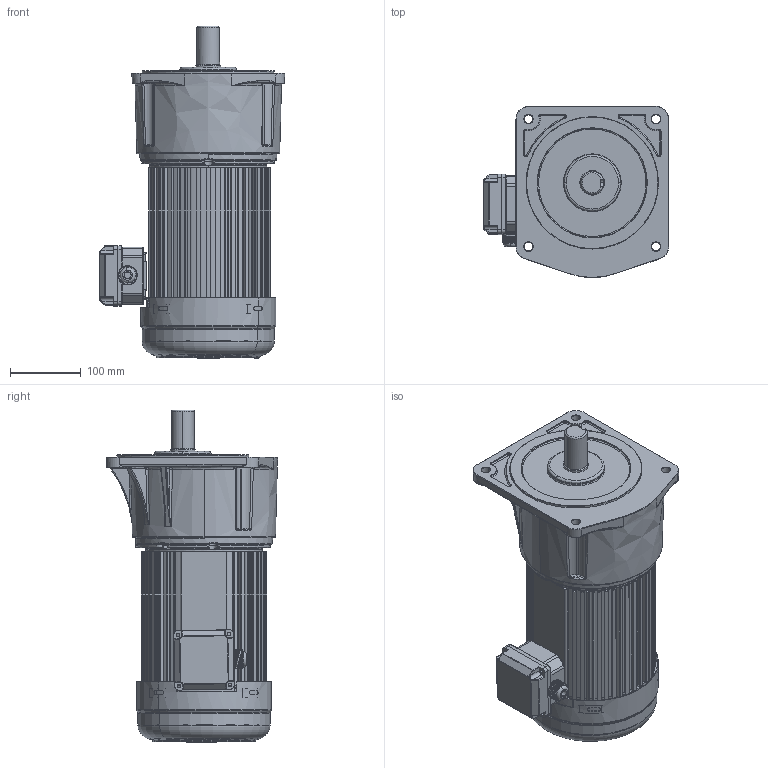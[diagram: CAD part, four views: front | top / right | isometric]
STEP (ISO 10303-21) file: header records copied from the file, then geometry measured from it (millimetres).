
FILE_DESCRIPTION (( 'STEP AP203' ), '1' );
FILE_NAME ('2200W饜4#湍价陬蕾宒.STEP', '2020-04-18T01:39:13', ( 'china' ), ( 'china' ), 'SwSTEP 2.0', 'SolidWorks 2019', '' );
FILE_SCHEMA (( 'CONFIG_CONTROL_DESIGN' ));
Length unit declared in the file: millimetre
Products named in the file (9): 4#蕾宒眊极; 瑞欶; 4-xg3-0926; 蜊輛綴諉盄碟釱3; 2200W饜4#湍价陬蕾宒; 諉芛; 2200W儂褲; 1500W棠憤迖殤; 湍价陬諉盄碟裔
Assembly tree (8 placements, depth 2):
  2200W饜4#湍价陬蕾宒
    瑞欶
    蜊輛綴諉盄碟釱3
    諉芛
    2200W儂褲
    1500W棠憤迖殤
    湍价陬諉盄碟裔
    4#蕾宒眊极
    4-xg3-0926
Bounding box: 261.98 x 241.97 x 469.48 mm (x, y, z)
Volume: 5297244.4 mm3; surface area: 980128.4 mm2
Topology: 9 solids, 10 shells, 3513 faces, 9221 edges, 5640 vertices
Faces by surface type: plane 1185, cylinder 994, bspline 766, torus 306, cone 200, sphere 62
Entity records: 236483 total; most frequent: CARTESIAN_POINT 155574, ORIENTED_EDGE 18145, DIRECTION 14563, EDGE_CURVE 9074, VERTEX_POINT 5640, AXIS2_PLACEMENT_3D 5313, VECTOR 3937, LINE 3937
